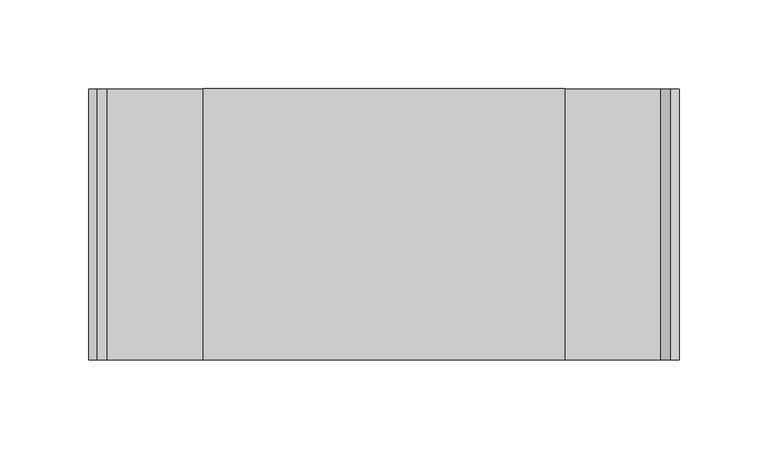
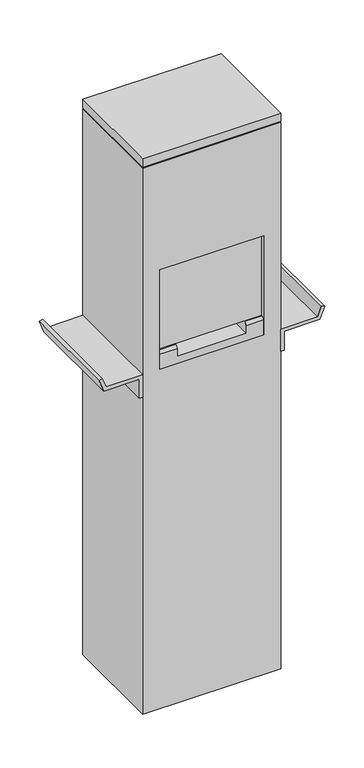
"""IFC4 building model written with IfcOpenShell, lengths in millimetres: proxy geometry, Charging_Station-Wiremold-Power_Pedestal : Power Pedestal, 3 Gangs (1x GFCI, 2x 4USB), Bronze."""

from ifc_helpers import new_model, si_unit, frame, origin, origin_with_axes, place, context, project, spatial, polyline, circle_curve, outline, extrude, faceted_brep, source, transform, mapped, element, save
from ifc_brep_helpers import plane_surface, revolved_surface, advanced_brep


def electrical_fixtures_673e49bc(model_context):
    return source(origin(), model_context, "Body", "SolidModel", [
        extrude(outline(polyline([(493.2045, -106.68), (493.2045, -101.6), (527.812, -101.6), (527.812, -155.575), (542.7345, -161.0063458), (540.9970377, -165.7799843), (522.732, -159.1320543), (522.732, -106.68), (493.2045, -106.68)])), frame((0.0, -76.2, 0.0), z_axis=(0.0, 1.0, 0.0), x_axis=(0.0, 0.0, 1.0)), (0.0, 0.0, 1.0), 152.4),
        extrude(outline(polyline([(493.2045, 106.68), (522.732, 106.68), (522.732, 159.1320543), (540.9970377, 165.7799843), (542.7345, 161.0063458), (527.812, 155.575), (527.812, 101.6), (493.2045, 101.6), (493.2045, 106.68)])), frame((0.0, -76.2, 0.0), z_axis=(0.0, 1.0, 0.0), x_axis=(0.0, 0.0, 1.0)), (0.0, 0.0, 1.0), 152.4),
        extrude(outline(polyline([(76.2, -38.1), (76.2, -70.612), (-76.2, -70.612), (-76.2, -38.1), (76.2, -38.1)])), frame((0.0, 0.0, 554.99), z_axis=(0.0, 0.0, 1.0), x_axis=(1.0, 0.0, 0.0)), (0.0, 0.0, 1.0), 158.75),
        faceted_brep([(76.2, -76.2, 527.812), (76.2, 19.05, 527.812), (76.2, 19.05, 554.99), (76.2, -72.136, 554.99), (76.2, -76.2, 550.926), (-76.2, -76.2, 527.812), (-76.2, -76.2, 550.926), (-76.2, -72.136, 554.99), (-76.2, 19.05, 554.99), (-76.2, 19.05, 527.812), (-50.8, -72.136, 554.99), (-50.8, -31.8809117, 554.99), (50.8, -31.8809117, 554.99), (50.8, -72.136, 554.99), (50.8, -76.2, 550.926), (50.8, -76.2, 539.115), (-50.8, -76.2, 539.115), (-50.8, -76.2, 550.926), (50.8, -50.8, 539.115), (-50.8, -50.8, 539.115)], [[[0, 1, 2, 3, 4]], [[5, 6, 7, 8, 9]], [[1, 0, 5, 9]], [[2, 1, 9, 8]], [[3, 2, 8, 7, 10, 11, 12, 13]], [[0, 4, 14, 15, 16, 17, 6, 5]], [[12, 18, 15, 14, 13]], [[16, 19, 11, 10, 17]], [[18, 12, 11, 19]], [[15, 18, 19, 16]], [[4, 3, 13, 14]], [[7, 6, 17, 10]]]),
        advanced_brep(
        [(101.6, 76.2, 849.122), (-101.6, 76.2, 849.122), (-101.6, -76.2, 849.122), (101.6, -76.2, 849.122), (101.6, 76.2, 0.0), (101.6, -76.2, 0.0), (-101.6, -76.2, 0.0), (-101.6, 76.2, 0.0), (-55.0037, 0.0, 0.0), (55.0037, 0.0, 0.0), (76.2, -76.2, 681.99), (76.2, -76.2, 527.812), (-76.2, -76.2, 527.812), (-76.2, -76.2, 681.99), (76.2, 19.05, 681.99), (76.2, 19.05, 527.812), (76.2, -70.612, 681.99), (76.2, -70.612, 713.74), (76.2, -38.1, 713.74), (76.2, -38.1, 681.99), (-76.2, 19.05, 681.99), (-76.2, -38.1, 681.99), (-76.2, -38.1, 713.74), (-76.2, -70.612, 713.74), (-76.2, -70.612, 681.99), (-76.2, 19.05, 527.812), (-55.0037, 0.0, 203.2), (55.0037, 0.0, 203.2)],
        [
            (0, 1),
            (1, 2),
            (2, 3),
            (3, 0),
            (4, 5),
            (5, 6),
            (6, 7),
            (7, 4),
            (8, 9, circle_curve(origin_with_axes(), 55.0037)),
            (9, 8, circle_curve(origin_with_axes(), 55.0037)),
            (0, 4),
            (7, 1),
            (6, 2),
            (5, 3),
            (10, 11),
            (11, 12),
            (12, 13),
            (13, 10),
            (14, 15),
            (15, 11),
            (10, 16),
            (16, 17),
            (17, 18),
            (18, 19),
            (19, 14),
            (20, 21),
            (21, 22),
            (22, 23),
            (23, 24),
            (24, 13),
            (12, 25),
            (25, 20),
            (19, 21),
            (20, 14),
            (15, 25),
            (18, 22),
            (17, 23),
            (16, 24),
            (26, 27, circle_curve(frame((0.0, 0.0, 203.2), z_axis=(0.0, 0.0, -1.0), x_axis=(1.0, 0.0, 0.0)), 55.0037)),
            (27, 26, circle_curve(frame((0.0, 0.0, 203.2), z_axis=(0.0, 0.0, -1.0), x_axis=(1.0, 0.0, 0.0)), 55.0037)),
            (27, 9),
            (8, 26),
        ],
        [
            plane_surface(frame((-101.6, 76.2, 849.122), z_axis=(0.0, 0.0, 1.0), x_axis=(-1.0, 0.0, 0.0))),
            plane_surface(frame((-101.6, 76.2, 0.0), z_axis=(0.0, 0.0, -1.0), x_axis=(1.0, 0.0, 0.0))),
            plane_surface(frame((101.6, 76.2, 849.122), z_axis=(0.0, 1.0, 0.0), x_axis=(0.0, 0.0, -1.0))),
            plane_surface(frame((-101.6, 76.2, 849.122), z_axis=(-1.0, 0.0, 0.0), x_axis=(0.0, 0.0, -1.0))),
            plane_surface(frame((-101.6, -76.2, 849.122), z_axis=(0.0, -1.0, 0.0), x_axis=(0.0, 0.0, -1.0))),
            plane_surface(frame((101.6, -76.2, 849.122), z_axis=(1.0, 0.0, 0.0), x_axis=(0.0, 0.0, -1.0))),
            plane_surface(frame((76.2, -38.1, 681.99), z_axis=(-1.0, 0.0, 0.0), x_axis=(0.0, -1.0, 0.0))),
            plane_surface(frame((-76.2, -38.1, 681.99), z_axis=(1.0, 0.0, 0.0), x_axis=(0.0, 1.0, 0.0))),
            plane_surface(frame((76.2, 19.05, 681.99), z_axis=(0.0, 0.0, -1.0), x_axis=(-1.0, 0.0, 0.0))),
            plane_surface(frame((76.2, -76.2, 527.812), z_axis=(0.0, 0.0, 1.0), x_axis=(-1.0, 0.0, 0.0))),
            plane_surface(frame((76.2, 19.05, 527.812), z_axis=(0.0, -1.0, 0.0), x_axis=(-1.0, 0.0, 0.0))),
            plane_surface(frame((76.2, -38.1, 681.99), z_axis=(0.0, -1.0, 0.0), x_axis=(-1.0, 0.0, 0.0))),
            plane_surface(frame((76.2, -38.1, 713.74), z_axis=(0.0, 0.0, -1.0), x_axis=(-1.0, 0.0, 0.0))),
            plane_surface(frame((76.2, -70.612, 713.74), z_axis=(0.0, 1.0, 0.0), x_axis=(-1.0, 0.0, 0.0))),
            plane_surface(frame((76.2, -70.612, 681.99), z_axis=(0.0, 0.0, -1.0), x_axis=(-1.0, 0.0, 0.0))),
            plane_surface(frame((55.0037, 0.0, 203.2), z_axis=(0.0, 0.0, -1.0), x_axis=(0.0, 1.0, 0.0))),
            revolved_surface(polyline([(55.0037, 0.0, 203.2), (55.0037, 0.0, 0.0)]), (0.0, 0.0, 0.0), (0.0, 0.0, 1.0)),
        ],
        [
            (0, [[1, 2, 3, 4]]),
            (1, [[5, 6, 7, 8], [9, 10]]),
            (2, [[-1, 11, -8, 12]]),
            (3, [[-2, -12, -7, 13]]),
            (4, [[-3, -13, -6, 14], [15, 16, 17, 18]]),
            (5, [[-4, -14, -5, -11]]),
            (6, [[19, 20, -15, 21, 22, 23, 24, 25]]),
            (7, [[26, 27, 28, 29, 30, -17, 31, 32]]),
            (8, [[-25, 33, -26, 34]]),
            (9, [[-20, 35, -31, -16]]),
            (10, [[-19, -34, -32, -35]]),
            (11, [[-24, 36, -27, -33]]),
            (12, [[-23, 37, -28, -36]]),
            (13, [[-22, 38, -29, -37]]),
            (14, [[-21, -18, -30, -38]]),
            (15, [[39, 40]]),
            (16, [[-40, 41, -9, 42]]),
            (16, [[-39, -42, -10, -41]]),
        ],
    ),
        extrude(outline(polyline([(99.822, 74.422), (99.822, -74.422), (-99.822, -74.422), (-99.822, 74.422), (99.822, 74.422)])), frame((0.0, 0.0, 849.122), z_axis=(0.0, 0.0, 1.0), x_axis=(1.0, 0.0, 0.0)), (0.0, 0.0, 1.0), 1.778),
        extrude(outline(polyline([(101.6, 76.2), (101.6, -76.2), (-101.6, -76.2), (-101.6, 76.2), (101.6, 76.2)])), frame((0.0, 0.0, 850.9), z_axis=(0.0, 0.0, 1.0), x_axis=(1.0, 0.0, 0.0)), (0.0, 0.0, 1.0), 12.7),
    ])


if __name__ == "__main__":
    model = new_model("IFC4")
    model_context = context("Model", 3, world=origin())
    ifc_project = project(units=[si_unit("LENGTHUNIT", "METRE", prefix="MILLI")], contexts=[model_context])
    site = spatial("IfcSite", under=ifc_project)
    building = spatial("IfcBuilding", under=site)
    placement = place(None, origin())
    electrical_fixtures_shape = electrical_fixtures_673e49bc(model_context)
    element("IfcBuildingElementProxy", 1, Name="Charging_Station-Wiremold-Power_Pedestal : Power Pedestal, 3 Gangs (1x GFCI, 2x 4USB), Bronze", ObjectType="Charging_Station-Wiremold-Power_Pedestal : Power Pedestal, 3 Gangs (1x GFCI, 2x 4USB), Bronze", at=placement, inside=building, context=model_context, shape_type="MappedRepresentation", body=[
        mapped(electrical_fixtures_shape, transform((0.0, 0.0, 0.0), x_axis=(1.0, 0.0, 0.0), y_axis=(0.0, 1.0, 0.0), z_axis=(0.0, 0.0, 1.0))),
    ])
    save(model, "model.ifc")
